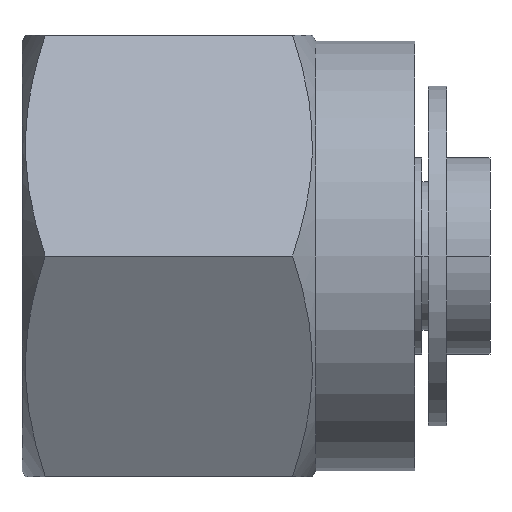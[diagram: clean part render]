
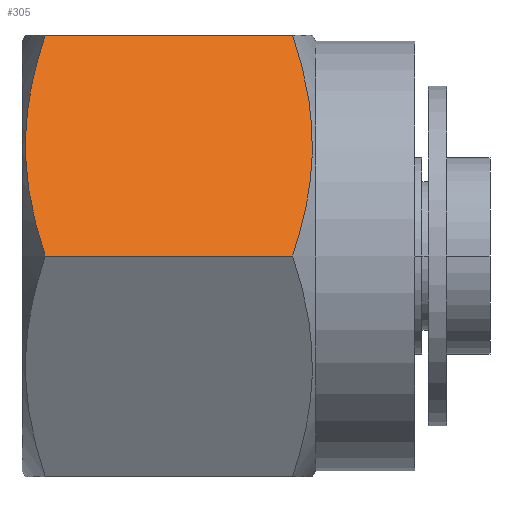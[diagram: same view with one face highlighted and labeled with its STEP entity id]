
A CAD part, front view. The second image highlights one B-rep face of the part: STEP entity #305.
In plain terms, the highlighted planar face has unit normal (0, -0.866, 0.5).
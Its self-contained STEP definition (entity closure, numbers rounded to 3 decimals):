
#305 = ADVANCED_FACE ( 'NONE', ( #1506 ), #1504, .F. ) ;
#306 = EDGE_LOOP ( 'NONE', ( #323, #324, #310, #311 ) ) ;
#310 = ORIENTED_EDGE ( 'NONE', *, *, #338, .F. ) ;
#311 = ORIENTED_EDGE ( 'NONE', *, *, #330, .T. ) ;
#315 = EDGE_CURVE ( 'NONE', #354, #782, #1497, .T. ) ;
#323 = ORIENTED_EDGE ( 'NONE', *, *, #848, .F. ) ;
#324 = ORIENTED_EDGE ( 'NONE', *, *, #315, .F. ) ;
#330 = EDGE_CURVE ( 'NONE', #353, #784, #1568, .T. ) ;
#338 = EDGE_CURVE ( 'NONE', #353, #354, #1551, .T. ) ;
#353 = VERTEX_POINT ( 'NONE', #1575 ) ;
#354 = VERTEX_POINT ( 'NONE', #1623 ) ;
#782 = VERTEX_POINT ( 'NONE', #2737 ) ;
#784 = VERTEX_POINT ( 'NONE', #2736 ) ;
#848 = EDGE_CURVE ( 'NONE', #782, #784, #2907, .T. ) ;
#1491 = DIRECTION ( 'NONE',  ( -1., 0., 0. ) ) ;
#1492 = VECTOR ( 'NONE', #1491, 1000. ) ;
#1493 = CARTESIAN_POINT ( 'NONE',  ( 12.7, -8.25, 0. ) ) ;
#1497 = LINE ( 'NONE', #1493, #1492 ) ;
#1500 = DIRECTION ( 'NONE',  ( 0., 0.5, 0.866 ) ) ;
#1501 = DIRECTION ( 'NONE',  ( 0., 0.866, -0.5 ) ) ;
#1502 = CARTESIAN_POINT ( 'NONE',  ( 12.7, -4.125, 7.145 ) ) ;
#1503 = AXIS2_PLACEMENT_3D ( 'NONE', #1502, #1501, #1500 ) ;
#1504 = PLANE ( 'NONE',  #1503 ) ;
#1506 = FACE_OUTER_BOUND ( 'NONE', #306, .T. ) ;
#1545 = CARTESIAN_POINT ( 'NONE',  ( 8.944, -4.462, 6.562 ) ) ;
#1546 = CARTESIAN_POINT ( 'NONE',  ( 8.749, -4.125, 7.145 ) ) ;
#1551 = B_SPLINE_CURVE_WITH_KNOTS ( 'NONE', 3,
 ( #1546, #1545, #1603, #1602, #1601, #1600, #1599, #1598, #1597, #1596, #1595, #1594 ),
 .UNSPECIFIED., .F., .F.,
 ( 4, 2, 2, 2, 2, 4 ),
 ( 0., 0.002, 0.004, 0.005, 0.006, 0.008 ),
 .UNSPECIFIED. ) ;
#1563 = DIRECTION ( 'NONE',  ( -1., 0., 0. ) ) ;
#1564 = VECTOR ( 'NONE', #1563, 1000. ) ;
#1565 = CARTESIAN_POINT ( 'NONE',  ( 12.7, -4.125, 7.145 ) ) ;
#1568 = LINE ( 'NONE', #1565, #1564 ) ;
#1575 = CARTESIAN_POINT ( 'NONE',  ( 8.749, -4.125, 7.145 ) ) ;
#1594 = CARTESIAN_POINT ( 'NONE',  ( 8.749, -8.25, 0. ) ) ;
#1595 = CARTESIAN_POINT ( 'NONE',  ( 8.944, -7.913, 0.584 ) ) ;
#1596 = CARTESIAN_POINT ( 'NONE',  ( 9.105, -7.573, 1.173 ) ) ;
#1597 = CARTESIAN_POINT ( 'NONE',  ( 9.271, -7.057, 2.067 ) ) ;
#1598 = CARTESIAN_POINT ( 'NONE',  ( 9.315, -6.884, 2.367 ) ) ;
#1599 = CARTESIAN_POINT ( 'NONE',  ( 9.373, -6.535, 2.97 ) ) ;
#1600 = CARTESIAN_POINT ( 'NONE',  ( 9.388, -6.359, 3.276 ) ) ;
#1601 = CARTESIAN_POINT ( 'NONE',  ( 9.387, -5.833, 4.187 ) ) ;
#1602 = CARTESIAN_POINT ( 'NONE',  ( 9.326, -5.487, 4.787 ) ) ;
#1603 = CARTESIAN_POINT ( 'NONE',  ( 9.104, -4.801, 5.974 ) ) ;
#1623 = CARTESIAN_POINT ( 'NONE',  ( 8.749, -8.25, 0. ) ) ;
#2736 = CARTESIAN_POINT ( 'NONE',  ( 0.751, -4.125, 7.145 ) ) ;
#2737 = CARTESIAN_POINT ( 'NONE',  ( 0.751, -8.25, 0. ) ) ;
#2907 = B_SPLINE_CURVE_WITH_KNOTS ( 'NONE', 3,
 ( #2911, #2910, #2909, #2908, #2975, #2974, #2973, #2972, #2971, #2970, #2969, #2968 ),
 .UNSPECIFIED., .F., .F.,
 ( 4, 2, 2, 2, 2, 4 ),
 ( 0., 0.002, 0.004, 0.005, 0.006, 0.008 ),
 .UNSPECIFIED. ) ;
#2908 = CARTESIAN_POINT ( 'NONE',  ( 0.174, -6.889, 2.358 ) ) ;
#2909 = CARTESIAN_POINT ( 'NONE',  ( 0.396, -7.574, 1.171 ) ) ;
#2910 = CARTESIAN_POINT ( 'NONE',  ( 0.556, -7.914, 0.583 ) ) ;
#2911 = CARTESIAN_POINT ( 'NONE',  ( 0.751, -8.25, 0. ) ) ;
#2968 = CARTESIAN_POINT ( 'NONE',  ( 0.751, -4.125, 7.145 ) ) ;
#2969 = CARTESIAN_POINT ( 'NONE',  ( 0.556, -4.462, 6.561 ) ) ;
#2970 = CARTESIAN_POINT ( 'NONE',  ( 0.395, -4.802, 5.972 ) ) ;
#2971 = CARTESIAN_POINT ( 'NONE',  ( 0.229, -5.319, 5.078 ) ) ;
#2972 = CARTESIAN_POINT ( 'NONE',  ( 0.185, -5.492, 4.778 ) ) ;
#2973 = CARTESIAN_POINT ( 'NONE',  ( 0.127, -5.84, 4.175 ) ) ;
#2974 = CARTESIAN_POINT ( 'NONE',  ( 0.112, -6.016, 3.869 ) ) ;
#2975 = CARTESIAN_POINT ( 'NONE',  ( 0.113, -6.542, 2.958 ) ) ;
